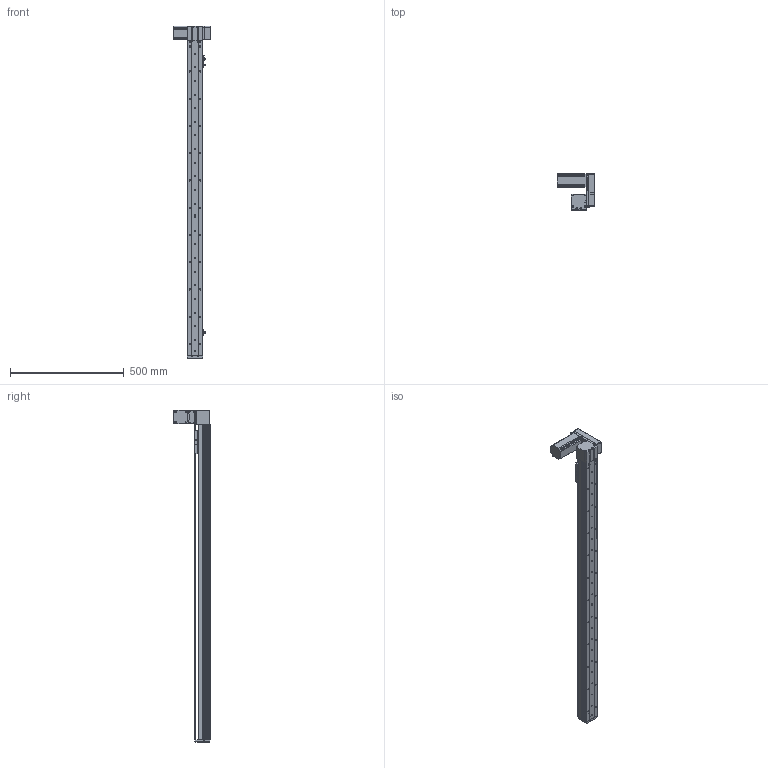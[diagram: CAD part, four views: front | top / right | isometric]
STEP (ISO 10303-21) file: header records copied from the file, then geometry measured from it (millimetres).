
FILE_DESCRIPTION (( 'STEP AP214' ), '1' );
FILE_NAME ('KSD68BS-S1200-MLU-CM.STEP', '2019-08-22T03:09:03', ( '微软用户' ), ( '微软中国' ), 'SwSTEP 2.0', 'SolidWorks 2014', '' );
FILE_SCHEMA (( 'AUTOMOTIVE_DESIGN' ));
Length unit declared in the file: millimetre
Products named in the file (11): KSD68BS半封闭同步带传动导轨座; U倰嫖萇EEㄜSX672; 台达ECMA－C20604AS伺服电机（400W); KSD68BS 1200俴最菁啣圉猾敕; KSD68BS-S1200-MLU-CM; 悵誘欶奻狟殏; 68宽马达安装板连板上折同步带; 68宽单导轨半封闭同步带主动轮座左; 68单导轨同步带半封闭端板; KSD68BS 1200俴最裔啣圉猾敕; 覜茼え68遵圉猾敕
Assembly tree (12 placements, depth 2):
  KSD68BS-S1200-MLU-CM
    KSD68BS 1200俴最菁啣圉猾敕
    台达ECMA－C20604AS伺服电机（400W)
    U倰嫖萇EEㄜSX672  x3
    KSD68BS半封闭同步带传动导轨座
    覜茼え68遵圉猾敕
    KSD68BS 1200俴最裔啣圉猾敕
    68单导轨同步带半封闭端板
    68宽单导轨半封闭同步带主动轮座左
    68宽马达安装板连板上折同步带
    悵誘欶奻狟殏
Bounding box: 167.2 x 159.5 x 1462 mm (x, y, z)
Volume: 2623076.8 mm3; surface area: 944631.9 mm2
Topology: 13 solids, 13 shells, 1472 faces, 4268 edges, 2778 vertices
Faces by surface type: cylinder 754, plane 635, cone 83
Entity records: 55702 total; most frequent: CARTESIAN_POINT 10918, ORIENTED_EDGE 7288, DIRECTION 7126, EDGE_CURVE 3644, AXIS2_PLACEMENT_3D 2562, VERTEX_POINT 2402, VECTOR 2002, LINE 2002
